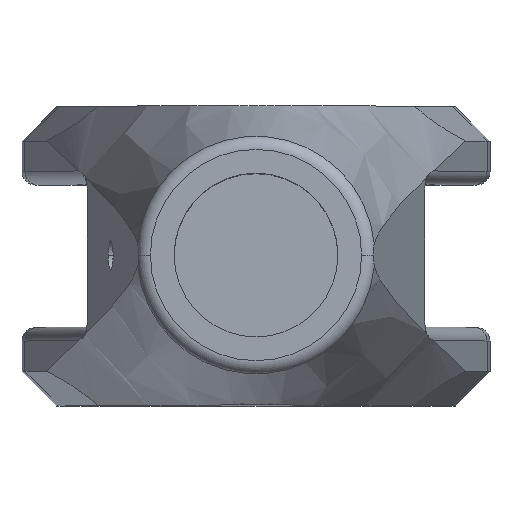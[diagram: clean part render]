
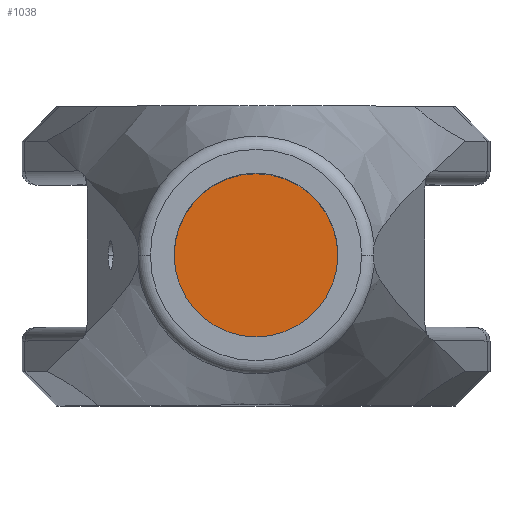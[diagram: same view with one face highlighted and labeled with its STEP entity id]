
A CAD part, top view. The second image highlights one B-rep face of the part: STEP entity #1038.
In plain terms, the highlighted planar face has unit normal (0, 0, 1).
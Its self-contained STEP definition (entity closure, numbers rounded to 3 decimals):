
#53 = CARTESIAN_POINT ( 'NONE',  ( 103., 0., -170. ) ) ;
#101 = EDGE_LOOP ( 'NONE', ( #1008, #197 ) ) ;
#109 = PLANE ( 'NONE',  #651 ) ;
#157 = DIRECTION ( 'NONE',  ( 0., 0., 1. ) ) ;
#196 = CARTESIAN_POINT ( 'NONE',  ( 60.5, 0., -170. ) ) ;
#197 = ORIENTED_EDGE ( 'NONE', *, *, #1291, .T. ) ;
#340 = AXIS2_PLACEMENT_3D ( 'NONE', #196, #1444, #403 ) ;
#403 = DIRECTION ( 'NONE',  ( 1., 0., 0. ) ) ;
#430 = CIRCLE ( 'NONE', #886, 42.5 ) ;
#502 = DIRECTION ( 'NONE',  ( 0., 0., 1. ) ) ;
#644 = CIRCLE ( 'NONE', #340, 42.5 ) ;
#651 = AXIS2_PLACEMENT_3D ( 'NONE', #1708, #502, #1717 ) ;
#886 = AXIS2_PLACEMENT_3D ( 'NONE', #1224, #157, #1399 ) ;
#1008 = ORIENTED_EDGE ( 'NONE', *, *, #1091, .T. ) ;
#1038 = ADVANCED_FACE ( 'NONE', ( #1868 ), #109, .T. ) ;
#1091 = EDGE_CURVE ( 'NONE', #2086, #1788, #430, .T. ) ;
#1224 = CARTESIAN_POINT ( 'NONE',  ( 60.5, 0., -170. ) ) ;
#1291 = EDGE_CURVE ( 'NONE', #1788, #2086, #644, .T. ) ;
#1399 = DIRECTION ( 'NONE',  ( 1., 0., 0. ) ) ;
#1444 = DIRECTION ( 'NONE',  ( 0., 0., 1. ) ) ;
#1708 = CARTESIAN_POINT ( 'NONE',  ( 60.5, 0., -170. ) ) ;
#1717 = DIRECTION ( 'NONE',  ( 1., 0., 0. ) ) ;
#1788 = VERTEX_POINT ( 'NONE', #1998 ) ;
#1868 = FACE_OUTER_BOUND ( 'NONE', #101, .T. ) ;
#1998 = CARTESIAN_POINT ( 'NONE',  ( 18., 0., -170. ) ) ;
#2086 = VERTEX_POINT ( 'NONE', #53 ) ;
